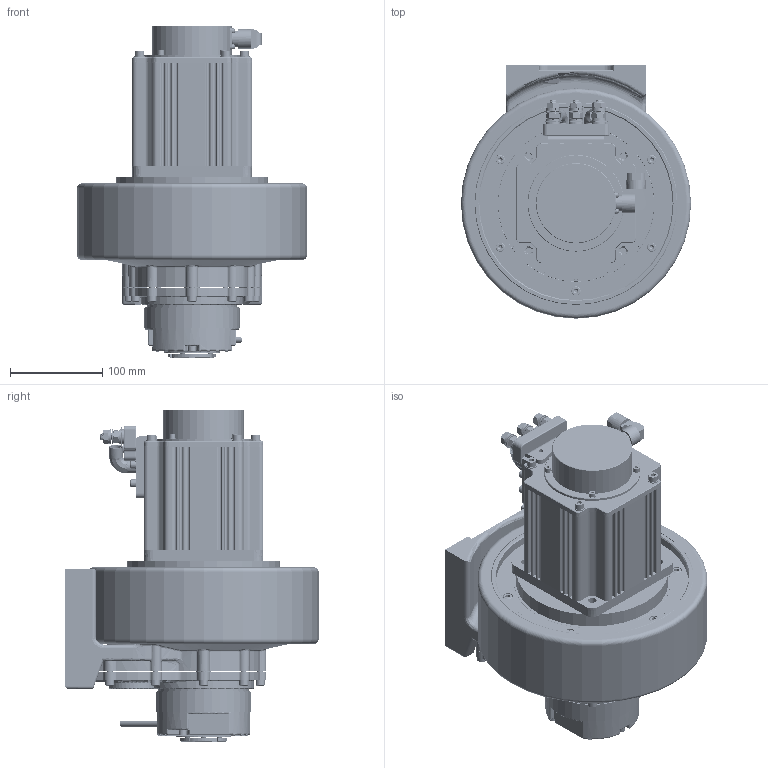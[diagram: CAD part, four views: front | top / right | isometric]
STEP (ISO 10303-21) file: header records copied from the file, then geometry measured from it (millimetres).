
FILE_DESCRIPTION (( 'STEP AP214' ), '1' );
FILE_NAME ('MGW250,Mbrake,35.7,D250, with notch+BLD0N_3D-07-S0447.STEP', '2019-07-19T10:12:45', ( '' ), ( '' ), 'SwSTEP 2.0', 'SolidWorks 2016', '' );
FILE_SCHEMA (( 'AUTOMOTIVE_DESIGN' ));
Length unit declared in the file: millimetre
Products named in the file (93): 外型圖-BLD0N24K8R00140102-參00_33; 外型圖-BLD0N24K8R00140102-參00_48; 外型圖-BLD0N24K8R00140102-參00; 減速機法蘭盤-BLS09BAB00001-參01; 外型圖-BLD0N24K8R00140102-參00_37; 外型圖-BLD0N24K8R00140102-參00_4; 外型圖-BLD0N24K8R00140102-參00_11; 外型圖-BLD0N24K8R00140102-參00_45; 外型圖-BLD0N24K8R00140102-參00_86; 外型圖-BLD0N24K8R00140102-參00_61; MGW250,Mbrake,35.7,D250, with notch+BLD0N_3D-07-S0447; 外型圖-BLD0N24K8R00140102-參00_77; 外型圖-BLD0N24K8R00140102-參00_30; 外型圖-BLD0N24K8R00140102-參00_16; 外型圖-BLD0N24K8R00140102-參00_76; 外型圖-BLD0N24K8R00140102-參00_43; 外型圖-BLD0N24K8R00140102-參00_8; 外型圖-BLD0N24K8R00140102-參00_87; 外型圖-BLD0N24K8R00140102-參00_51; 外型圖-BLD0N24K8R00140102-參00_47; 外型圖-BLD0N24K8R00140102-參00_84; 外型圖-BLD0N24K8R00140102-參00_50; 外型圖-BLD0N24K8R00140102-參00_55; 外型圖-BLD0N24K8R00140102-參00_7; 外型圖-BLD0N24K8R00140102-參00_6; 外型圖-BLD0N24K8R00140102-參00_29; 外型圖-BLD0N24K8R00140102-參00_58; 外型圖-BLD0N24K8R00140102-參00_85; 外型圖-BLD0N24K8R00140102-參00_67; 外型圖-BLD0N24K8R00140102-參00_32; 外型圖-BLD0N24K8R00140102-參00_9; 外型圖-BLD0N24K8R00140102-參00_31; 外型圖-BLD0N24K8R00140102-參00_79; 外型圖-BLD0N24K8R00140102-參00_36; 外型圖-BLD0N24K8R00140102-參00_2; 外型圖-BLD0N24K8R00140102-參00_18; 外型圖-BLD0N24K8R00140102-參00_10; 外型圖-BLD0N24K8R00140102-參00_70; 外型圖-BLD0N24K8R00140102-參00_14; 外型圖-BLD0N24K8R00140102-參00_44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
Assembly tree (95 placements, depth 3):
  MGW250,Mbrake,35.7,D250, with notch+BLD0N_3D-07-S0447
    BL130,35.7,D250, with notch_K1K0LM & N1K5LM
    外型圖-BLD0N24K8R00140102-參00
      外型圖-BLD0N24K8R00140102-參00_18
      外型圖-BLD0N24K8R00140102-參00_55
      外型圖-BLD0N24K8R00140102-參00_82
      外型圖-BLD0N24K8R00140102-參00_53
      外型圖-BLD0N24K8R00140102-參00_54
      外型圖-BLD0N24K8R00140102-參00_72
      外型圖-BLD0N24K8R00140102-參00_52
      外型圖-BLD0N24K8R00140102-參00_23
      外型圖-BLD0N24K8R00140102-參00_13
      外型圖-BLD0N24K8R00140102-參00_83
      外型圖-BLD0N24K8R00140102-參00_79
      外型圖-BLD0N24K8R00140102-參00_78
      外型圖-BLD0N24K8R00140102-參00_44
      外型圖-BLD0N24K8R00140102-參00_75
      外型圖-BLD0N24K8R00140102-參00_26
      外型圖-BLD0N24K8R00140102-參00_25
      外型圖-BLD0N24K8R00140102-參00_32
      外型圖-BLD0N24K8R00140102-參00_51
      外型圖-BLD0N24K8R00140102-參00_67
      外型圖-BLD0N24K8R00140102-參00_6
      外型圖-BLD0N24K8R00140102-參00_9
      外型圖-BLD0N24K8R00140102-參00_2
      外型圖-BLD0N24K8R00140102-參00_71
      外型圖-BLD0N24K8R00140102-參00_15
      外型圖-BLD0N24K8R00140102-參00_61
      外型圖-BLD0N24K8R00140102-參00_33
      外型圖-BLD0N24K8R00140102-參00_11
      外型圖-BLD0N24K8R00140102-參00_60
      外型圖-BLD0N24K8R00140102-參00_86
      外型圖-BLD0N24K8R00140102-參00_65
      外型圖-BLD0N24K8R00140102-參00_85
      外型圖-BLD0N24K8R00140102-參00_4
      外型圖-BLD0N24K8R00140102-參00_77
      外型圖-BLD0N24K8R00140102-參00_24
      外型圖-BLD0N24K8R00140102-參00_21
      外型圖-BLD0N24K8R00140102-參00_27
      外型圖-BLD0N24K8R00140102-參00
      外型圖-BLD0N24K8R00140102-參00_81
      外型圖-BLD0N24K8R00140102-參00_35
      外型圖-BLD0N24K8R00140102-參00_68
      外型圖-BLD0N24K8R00140102-參00_3
      外型圖-BLD0N24K8R00140102-參00_10
      外型圖-BLD0N24K8R00140102-參00_7
      外型圖-BLD0N24K8R00140102-參00_74
      外型圖-BLD0N24K8R00140102-參00_20
      外型圖-BLD0N24K8R00140102-參00_38
      外型圖-BLD0N24K8R00140102-參00_84
      外型圖-BLD0N24K8R00140102-參00_56
      外型圖-BLD0N24K8R00140102-參00_12
      外型圖-BLD0N24K8R00140102-參00_64
      外型圖-BLD0N24K8R00140102-參00_87
      外型圖-BLD0N24K8R00140102-參00_76
      外型圖-BLD0N24K8R00140102-參00_41
      外型圖-BLD0N24K8R00140102-參00_28
      外型圖-BLD0N24K8R00140102-參00_43
      外型圖-BLD0N24K8R00140102-參00_8
      外型圖-BLD0N24K8R00140102-參00_49
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Bounding box: 250 x 275 x 360.6 mm (x, y, z)
Volume: 5074761.6 mm3; surface area: 1284361.3 mm2
Topology: 137 solids, 137 shells, 4171 faces, 9916 edges, 6238 vertices
Faces by surface type: plane 1939, cylinder 1183, cone 511, bspline 347, torus 137, sphere 54
Full cylindrical faces by diameter (mm): 1 x20, 1.25 x2, 2.387 x4, 2.5 x6, 3 x5, 3.2 x4, 3.3 x5, 4 x4, 4.2 x12, 4.5 x4, 4.773 x10, 5 x50, 5.3 x7, 5.5 x10, 6 x57, 6.5 x4, 6.6 x6, 6.8 x24, 6.85 x6, 7 x5, 7.5 x4, 7.6 x1, 8 x6, 8.3 x12, 8.5 x10, 8.8 x6, 9 x4, 9.8 x1, 10 x40, 10.22 x4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
Entity records: 188831 total; most frequent: CARTESIAN_POINT 52021, DIRECTION 18521, ORIENTED_EDGE 16842, EDGE_CURVE 8421, AXIS2_PLACEMENT_3D 7323, VERTEX_POINT 5765, EDGE_LOOP 5614, FACE_OUTER_BOUND 4687
